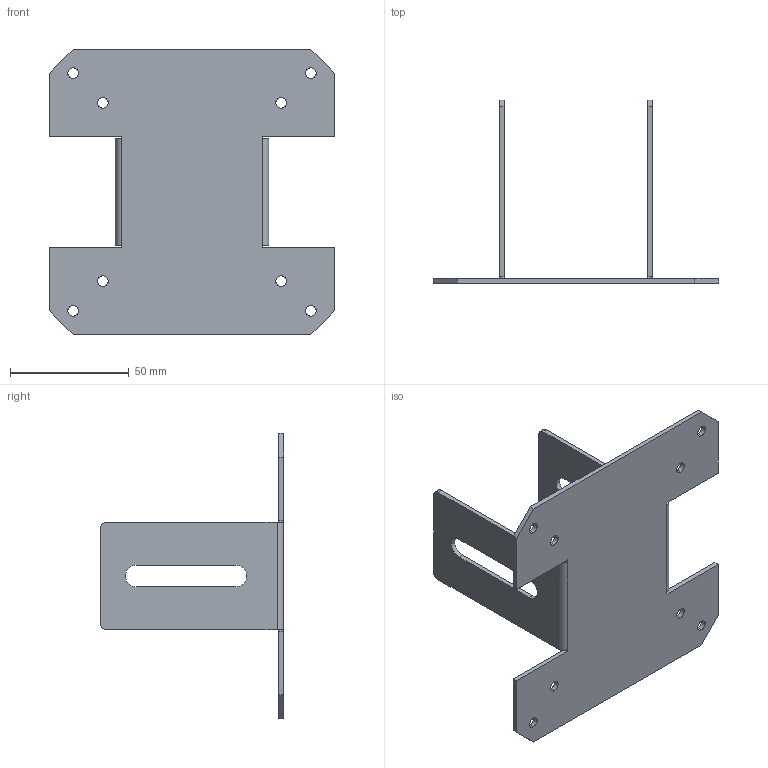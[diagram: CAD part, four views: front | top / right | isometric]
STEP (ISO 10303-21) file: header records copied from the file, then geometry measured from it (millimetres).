
FILE_DESCRIPTION (( 'STEP AP214' ), '1' );
FILE_NAME ('L00046 Näytön kiinnityslevy.STEP', '2024-03-21T13:45:20', ( '' ), ( '' ), 'SwSTEP 2.0', 'SolidWorks 2024', '' );
FILE_SCHEMA (( 'AUTOMOTIVE_DESIGN' ));
Length unit declared in the file: millimetre
Products named in the file (1): L00046 Näytön kiinnityslevy
Bounding box: 120 x 77 x 120 mm (x, y, z)
Volume: 34492.8 mm3; surface area: 36932.5 mm2
Topology: 1 solids, 1 shells, 68 faces, 182 edges, 116 vertices
Faces by surface type: plane 38, cylinder 30
Entity records: 2181 total; most frequent: DIRECTION 380, CARTESIAN_POINT 367, ORIENTED_EDGE 364, EDGE_CURVE 182, AXIS2_PLACEMENT_3D 129, LINE 122, VECTOR 122, VERTEX_POINT 116
